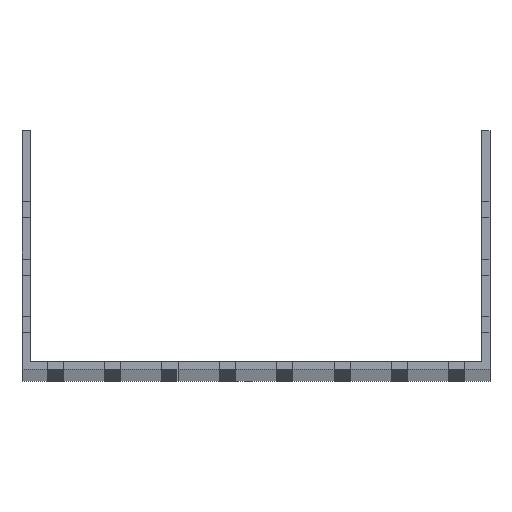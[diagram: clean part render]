
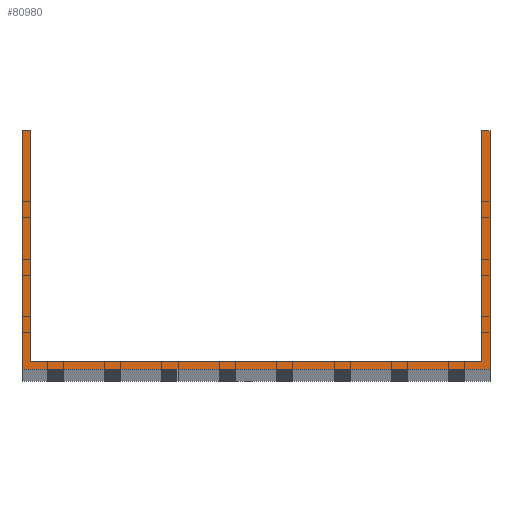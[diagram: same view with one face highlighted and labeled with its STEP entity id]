
A CAD part, top view. The second image highlights one B-rep face of the part: STEP entity #80980.
In plain terms, the highlighted planar face has unit normal (0, 0, 1).
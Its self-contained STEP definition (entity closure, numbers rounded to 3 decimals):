
#5257 = VECTOR ( 'NONE', #26619, 1000. ) ;
#5560 = EDGE_CURVE ( 'NONE', #61946, #76801, #12116, .T. ) ;
#6466 = CARTESIAN_POINT ( 'NONE',  ( -102., 104., 1500. ) ) ;
#8000 = EDGE_CURVE ( 'NONE', #76082, #132505, #38355, .T. ) ;
#9131 = CARTESIAN_POINT ( 'NONE',  ( 102., 104., 1500. ) ) ;
#10338 = DIRECTION ( 'NONE',  ( 0., 1., 0. ) ) ;
#12116 = LINE ( 'NONE', #51731, #103234 ) ;
#13709 = VECTOR ( 'NONE', #51111, 1000. ) ;
#16668 = VECTOR ( 'NONE', #93771, 1000. ) ;
#17565 = LINE ( 'NONE', #49513, #5257 ) ;
#18178 = VECTOR ( 'NONE', #10338, 1000. ) ;
#19137 = EDGE_CURVE ( 'NONE', #76801, #76082, #17565, .T. ) ;
#20657 = ORIENTED_EDGE ( 'NONE', *, *, #8000, .F. ) ;
#22444 = CARTESIAN_POINT ( 'NONE',  ( -102., 0., 1500. ) ) ;
#25174 = PLANE ( 'NONE',  #40231 ) ;
#26619 = DIRECTION ( 'NONE',  ( 1., 0., 0. ) ) ;
#27674 = CARTESIAN_POINT ( 'NONE',  ( -98.5, 104., 1500. ) ) ;
#29319 = DIRECTION ( 'NONE',  ( 0., 1., 0. ) ) ;
#32184 = DIRECTION ( 'NONE',  ( 1., 0., 0. ) ) ;
#34214 = DIRECTION ( 'NONE',  ( 1., 0., 0. ) ) ;
#37262 = VECTOR ( 'NONE', #32184, 1000. ) ;
#38355 = LINE ( 'NONE', #72993, #109955 ) ;
#39077 = LINE ( 'NONE', #6466, #108243 ) ;
#40231 = AXIS2_PLACEMENT_3D ( 'NONE', #86946, #67483, #34214 ) ;
#44175 = EDGE_CURVE ( 'NONE', #79524, #81223, #104043, .T. ) ;
#45997 = EDGE_CURVE ( 'NONE', #92106, #91254, #124665, .T. ) ;
#49513 = CARTESIAN_POINT ( 'NONE',  ( -102., 3.5, 1500. ) ) ;
#50066 = EDGE_CURVE ( 'NONE', #61946, #92106, #117321, .T. ) ;
#51111 = DIRECTION ( 'NONE',  ( 0., -1., 0. ) ) ;
#51280 = ORIENTED_EDGE ( 'NONE', *, *, #113496, .T. ) ;
#51731 = CARTESIAN_POINT ( 'NONE',  ( -98.5, 104., 1500. ) ) ;
#52132 = CARTESIAN_POINT ( 'NONE',  ( -102., 104., 1500. ) ) ;
#57364 = ORIENTED_EDGE ( 'NONE', *, *, #44175, .T. ) ;
#58581 = CARTESIAN_POINT ( 'NONE',  ( 102., 0., 1500. ) ) ;
#59874 = ORIENTED_EDGE ( 'NONE', *, *, #19137, .F. ) ;
#61946 = VERTEX_POINT ( 'NONE', #27674 ) ;
#63615 = ORIENTED_EDGE ( 'NONE', *, *, #45997, .T. ) ;
#67483 = DIRECTION ( 'NONE',  ( 0., 0., 1. ) ) ;
#68265 = ORIENTED_EDGE ( 'NONE', *, *, #50066, .T. ) ;
#72993 = CARTESIAN_POINT ( 'NONE',  ( 98.5, 104., 1500. ) ) ;
#73291 = CARTESIAN_POINT ( 'NONE',  ( 98.5, 104., 1500. ) ) ;
#73346 = CARTESIAN_POINT ( 'NONE',  ( -102., 104., 1500. ) ) ;
#76082 = VERTEX_POINT ( 'NONE', #134789 ) ;
#76801 = VERTEX_POINT ( 'NONE', #89374 ) ;
#77892 = FACE_OUTER_BOUND ( 'NONE', #117301, .T. ) ;
#79524 = VERTEX_POINT ( 'NONE', #58581 ) ;
#80847 = CARTESIAN_POINT ( 'NONE',  ( -102., 0., 1500. ) ) ;
#80980 = ADVANCED_FACE ( 'NONE', ( #77892 ), #25174, .T. ) ;
#81223 = VERTEX_POINT ( 'NONE', #9131 ) ;
#85342 = ORIENTED_EDGE ( 'NONE', *, *, #5560, .F. ) ;
#86946 = CARTESIAN_POINT ( 'NONE',  ( 0., 0., 1500. ) ) ;
#89374 = CARTESIAN_POINT ( 'NONE',  ( -98.5, 3.5, 1500. ) ) ;
#91254 = VERTEX_POINT ( 'NONE', #80847 ) ;
#92106 = VERTEX_POINT ( 'NONE', #73346 ) ;
#92803 = EDGE_CURVE ( 'NONE', #81223, #132505, #39077, .T. ) ;
#93771 = DIRECTION ( 'NONE',  ( -1., 0., 0. ) ) ;
#98643 = ORIENTED_EDGE ( 'NONE', *, *, #92803, .T. ) ;
#103234 = VECTOR ( 'NONE', #117603, 1000. ) ;
#104043 = LINE ( 'NONE', #136656, #18178 ) ;
#105061 = LINE ( 'NONE', #22444, #37262 ) ;
#108243 = VECTOR ( 'NONE', #123740, 1000. ) ;
#109955 = VECTOR ( 'NONE', #29319, 1000. ) ;
#113496 = EDGE_CURVE ( 'NONE', #91254, #79524, #105061, .T. ) ;
#114249 = CARTESIAN_POINT ( 'NONE',  ( -102., 104., 1500. ) ) ;
#117301 = EDGE_LOOP ( 'NONE', ( #85342, #68265, #63615, #51280, #57364, #98643, #20657, #59874 ) ) ;
#117321 = LINE ( 'NONE', #52132, #16668 ) ;
#117603 = DIRECTION ( 'NONE',  ( 0., -1., 0. ) ) ;
#123740 = DIRECTION ( 'NONE',  ( -1., 0., 0. ) ) ;
#124665 = LINE ( 'NONE', #114249, #13709 ) ;
#132505 = VERTEX_POINT ( 'NONE', #73291 ) ;
#134789 = CARTESIAN_POINT ( 'NONE',  ( 98.5, 3.5, 1500. ) ) ;
#136656 = CARTESIAN_POINT ( 'NONE',  ( 102., 104., 1500. ) ) ;
